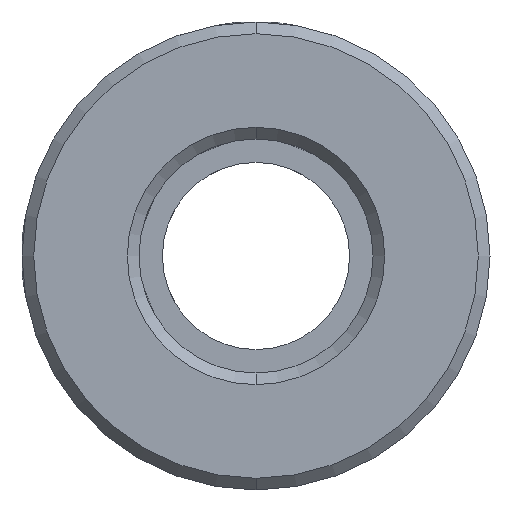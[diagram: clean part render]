
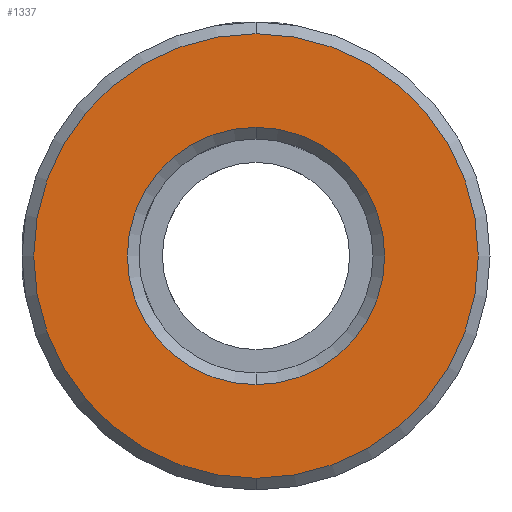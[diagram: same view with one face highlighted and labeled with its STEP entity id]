
A CAD part, front view. The second image highlights one B-rep face of the part: STEP entity #1337.
In plain terms, the highlighted planar face has unit normal (0, -1, 0).
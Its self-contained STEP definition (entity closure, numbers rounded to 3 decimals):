
#23 = DIRECTION ( 'NONE',  ( 0., -1., 0. ) ) ;
#54 = DIRECTION ( 'NONE',  ( 0., 0., 1. ) ) ;
#220 = DIRECTION ( 'NONE',  ( 0., 1., 0. ) ) ;
#274 = ORIENTED_EDGE ( 'NONE', *, *, #324, .T. ) ;
#290 = EDGE_LOOP ( 'NONE', ( #274, #2477 ) ) ;
#324 = EDGE_CURVE ( 'NONE', #1743, #1346, #2652, .T. ) ;
#492 = CARTESIAN_POINT ( 'NONE',  ( -10.188, -0.277, 0.046 ) ) ;
#580 = ORIENTED_EDGE ( 'NONE', *, *, #3007, .T. ) ;
#767 = FACE_OUTER_BOUND ( 'NONE', #290, .T. ) ;
#775 = CIRCLE ( 'NONE', #2835, 9.5 ) ;
#817 = DIRECTION ( 'NONE',  ( 0., 1., 0. ) ) ;
#937 = CARTESIAN_POINT ( 'NONE',  ( -10.188, -0.277, 5.546 ) ) ;
#1136 = EDGE_LOOP ( 'NONE', ( #580, #3470 ) ) ;
#1337 = ADVANCED_FACE ( 'NONE', ( #767, #2451 ), #1895, .F. ) ;
#1339 = CARTESIAN_POINT ( 'NONE',  ( -10.188, -0.277, -9.454 ) ) ;
#1346 = VERTEX_POINT ( 'NONE', #1339 ) ;
#1535 = AXIS2_PLACEMENT_3D ( 'NONE', #2816, #23, #54 ) ;
#1545 = CARTESIAN_POINT ( 'NONE',  ( -10.188, -0.277, -5.454 ) ) ;
#1634 = VERTEX_POINT ( 'NONE', #1545 ) ;
#1664 = EDGE_CURVE ( 'NONE', #1346, #1743, #775, .T. ) ;
#1682 = EDGE_CURVE ( 'NONE', #3378, #1634, #2011, .T. ) ;
#1743 = VERTEX_POINT ( 'NONE', #1818 ) ;
#1818 = CARTESIAN_POINT ( 'NONE',  ( -10.188, -0.277, 9.546 ) ) ;
#1895 = PLANE ( 'NONE',  #2242 ) ;
#1929 = DIRECTION ( 'NONE',  ( 0., 0., 1. ) ) ;
#1945 = DIRECTION ( 'NONE',  ( 0., 0., 1. ) ) ;
#2011 = CIRCLE ( 'NONE', #2606, 5.5 ) ;
#2242 = AXIS2_PLACEMENT_3D ( 'NONE', #2796, #2746, #1929 ) ;
#2311 = AXIS2_PLACEMENT_3D ( 'NONE', #3351, #817, #1945 ) ;
#2451 = FACE_BOUND ( 'NONE', #1136, .T. ) ;
#2477 = ORIENTED_EDGE ( 'NONE', *, *, #1664, .T. ) ;
#2606 = AXIS2_PLACEMENT_3D ( 'NONE', #3277, #220, #2720 ) ;
#2652 = CIRCLE ( 'NONE', #1535, 9.5 ) ;
#2720 = DIRECTION ( 'NONE',  ( 0., 0., 1. ) ) ;
#2746 = DIRECTION ( 'NONE',  ( 0., 1., 0. ) ) ;
#2796 = CARTESIAN_POINT ( 'NONE',  ( -10.188, -0.277, 0.046 ) ) ;
#2816 = CARTESIAN_POINT ( 'NONE',  ( -10.188, -0.277, 0.046 ) ) ;
#2835 = AXIS2_PLACEMENT_3D ( 'NONE', #492, #3038, #3333 ) ;
#3007 = EDGE_CURVE ( 'NONE', #1634, #3378, #3501, .T. ) ;
#3038 = DIRECTION ( 'NONE',  ( 0., -1., 0. ) ) ;
#3277 = CARTESIAN_POINT ( 'NONE',  ( -10.188, -0.277, 0.046 ) ) ;
#3333 = DIRECTION ( 'NONE',  ( 0., 0., 1. ) ) ;
#3351 = CARTESIAN_POINT ( 'NONE',  ( -10.188, -0.277, 0.046 ) ) ;
#3378 = VERTEX_POINT ( 'NONE', #937 ) ;
#3470 = ORIENTED_EDGE ( 'NONE', *, *, #1682, .T. ) ;
#3501 = CIRCLE ( 'NONE', #2311, 5.5 ) ;
